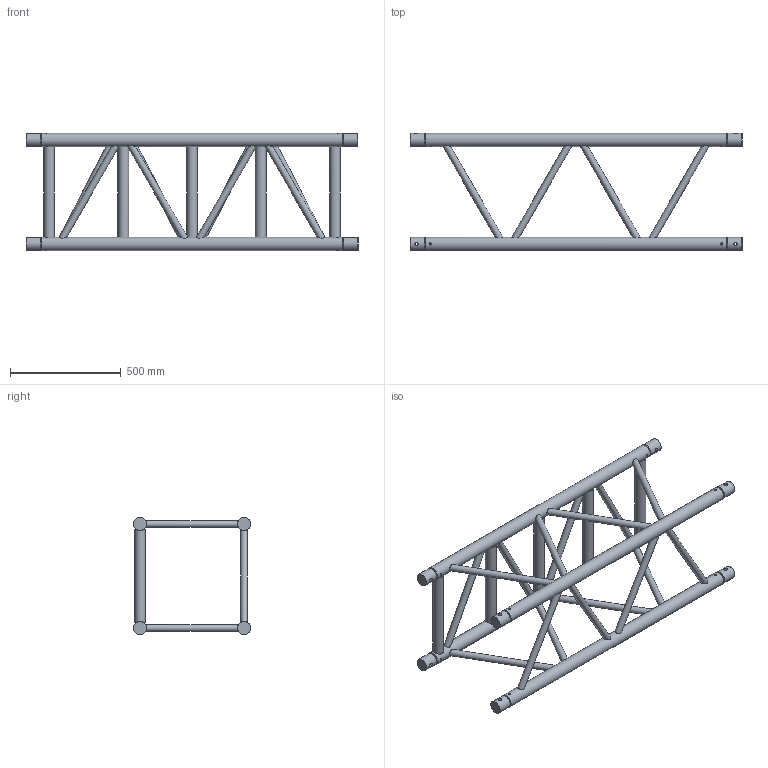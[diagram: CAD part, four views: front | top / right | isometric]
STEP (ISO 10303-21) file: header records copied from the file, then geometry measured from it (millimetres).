
FILE_DESCRIPTION(/* description */ ('C TOWER MAST SECTION 150 CM'),/* implementation_level */ '2;1');
FILE_NAME(/* name */ 'M:\Symbolen_NIEUW\STP\52-er truss\C52T\C52T-L150_111810004.stp',/* time_stamp */ '2017-12-15T15:33:42+01:00',/* author */ ('Kees'),/* organization */ (''),/* preprocessor_version */ 'ST-DEVELOPER v16.13',/* originating_system */ 'Autodesk Inventor 2018',/* authorisation */ '');
FILE_SCHEMA (('AUTOMOTIVE_DESIGN { 1 0 10303 214 3 1 1 }'));
Length unit declared in the file: millimetre
Products named in the file (1): 260001234
Bounding box: 1500 x 529.94 x 530 mm (x, y, z)
Volume: 25931769.3 mm3; surface area: 2189162.6 mm2
Topology: 3 solids, 3 shells, 125 faces, 377 edges, 252 vertices
Faces by surface type: cylinder 57, plane 52, cone 16
Full cylindrical faces by diameter (mm): 10.2 x8, 15.419 x8, 30 x16, 48.3 x5, 58.8 x8, 60 x4
Entity records: 6697 total; most frequent: CARTESIAN_POINT 3738, ORIENTED_EDGE 520, DIRECTION 484, EDGE_LOOP 268, EDGE_CURVE 260, VERTEX_POINT 228, AXIS2_PLACEMENT_3D 222, FACE_BOUND 151
